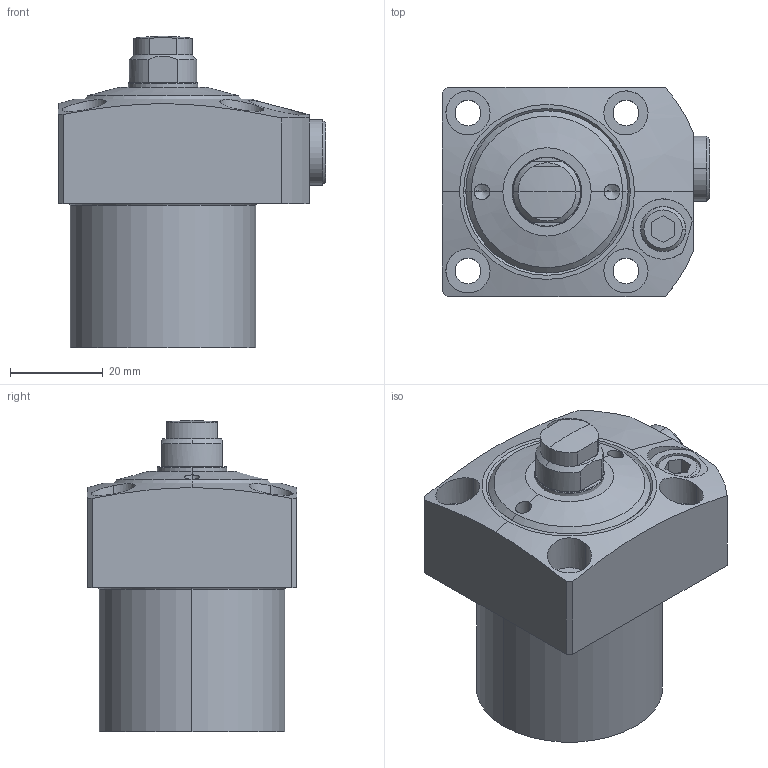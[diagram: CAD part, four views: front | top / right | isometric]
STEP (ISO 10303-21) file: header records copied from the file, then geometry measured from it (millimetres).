
FILE_DESCRIPTION(/* description */ (''),/* implementation_level */ '2;1');
FILE_NAME(/* name */ 'KFSC40.stp',/* time_stamp */ '2022-11-16T16:29:45+08:00',/* author */ (''),/* organization */ (''),/* preprocessor_version */ 'ST-DEVELOPER v16.7',/* originating_system */ 'SIEMENS PLM Software NX 12.0',/* authorisation */ '');
FILE_SCHEMA (('AP203_CONFIGURATION_CONTROLLED_3D_DESIGN_OF_MECHANICAL_PARTS_AND_ASSEMBLIES_MIM_LF { 1 0 10303 403 2 1 2}'));
Length unit declared in the file: millimetre
Products named in the file (5): KFSC40-04; KFSC40-01; KFSC40-03; KFSC40-02; LC0402-Cx_step
Assembly tree (4 placements, depth 2):
  LC0402-Cx_step
    KFSC40-02
    KFSC40-03
    KFSC40-01
    KFSC40-04
Bounding box: 57.5 x 45 x 67 mm (x, y, z)
Volume: 90883.3 mm3; surface area: 16916.3 mm2
Topology: 4 solids, 4 shells, 120 faces, 269 edges, 168 vertices
Faces by surface type: cylinder 46, plane 46, cone 24, sphere 2, torus 2
Entity records: 4089 total; most frequent: CARTESIAN_POINT 802, DIRECTION 605, ORIENTED_EDGE 530, EDGE_CURVE 265, AXIS2_PLACEMENT_3D 239, VERTEX_POINT 168, EDGE_LOOP 143, LINE 127
